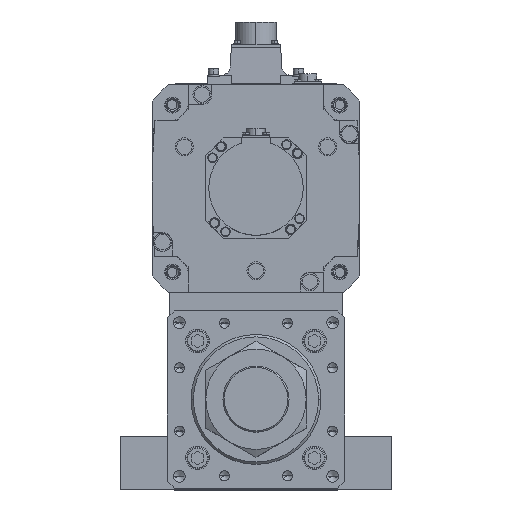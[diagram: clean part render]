
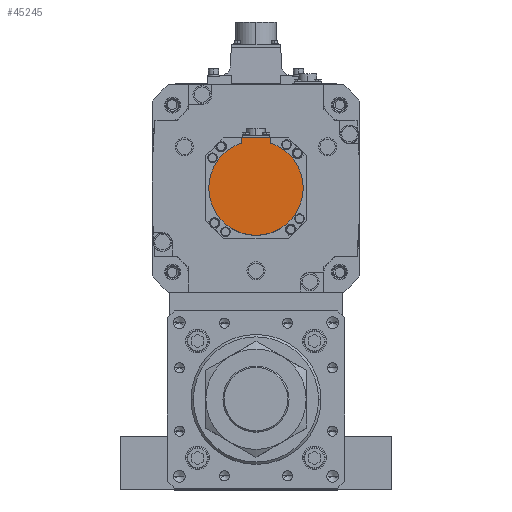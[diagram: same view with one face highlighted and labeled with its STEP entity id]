
A CAD part, top view. The second image highlights one B-rep face of the part: STEP entity #45245.
In plain terms, the highlighted planar face has unit normal (0, 0, 1) as drawn and (0, 0, -1) by its records, which use the part's own axes.
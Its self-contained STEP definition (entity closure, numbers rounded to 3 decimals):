
#108 = CARTESIAN_POINT ( 'NONE',  ( 12., -38.158, -228. ) ) ;
#1015 = DIRECTION ( 'NONE',  ( -1., 0., 0. ) ) ;
#2065 = ORIENTED_EDGE ( 'NONE', *, *, #23488, .F. ) ;
#2830 = DIRECTION ( 'NONE',  ( 1., 0., 0. ) ) ;
#4177 = CARTESIAN_POINT ( 'NONE',  ( -12., -38.158, -228. ) ) ;
#4830 = VERTEX_POINT ( 'NONE', #48286 ) ;
#6242 = AXIS2_PLACEMENT_3D ( 'NONE', #34002, #55398, #29469 ) ;
#6746 = EDGE_CURVE ( 'NONE', #55862, #42820, #25878, .T. ) ;
#7133 = LINE ( 'NONE', #45061, #27467 ) ;
#7333 = DIRECTION ( 'NONE',  ( 0., 0., 1. ) ) ;
#7704 = CARTESIAN_POINT ( 'NONE',  ( -12., -40.329, -228. ) ) ;
#8492 = FACE_OUTER_BOUND ( 'NONE', #13442, .T. ) ;
#9913 = DIRECTION ( 'NONE',  ( 1., 0., 0. ) ) ;
#11054 = VERTEX_POINT ( 'NONE', #4177 ) ;
#12715 = AXIS2_PLACEMENT_3D ( 'NONE', #31503, #26776, #9913 ) ;
#13442 = EDGE_LOOP ( 'NONE', ( #47881, #2065, #52361, #53785, #50135, #41305 ) ) ;
#13813 = EDGE_CURVE ( 'NONE', #21079, #23771, #42825, .T. ) ;
#18555 = DIRECTION ( 'NONE',  ( 0., 1., 0. ) ) ;
#19759 = CIRCLE ( 'NONE', #6242, 40. ) ;
#21079 = VERTEX_POINT ( 'NONE', #108 ) ;
#21245 = CARTESIAN_POINT ( 'NONE',  ( 0., -1.249, -228. ) ) ;
#22872 = EDGE_CURVE ( 'NONE', #55862, #21079, #7133, .T. ) ;
#23488 = EDGE_CURVE ( 'NONE', #4830, #11054, #30076, .T. ) ;
#23771 = VERTEX_POINT ( 'NONE', #25447 ) ;
#25300 = EDGE_CURVE ( 'NONE', #23771, #4830, #19759, .T. ) ;
#25390 = EDGE_CURVE ( 'NONE', #42820, #11054, #46178, .T. ) ;
#25447 = CARTESIAN_POINT ( 'NONE',  ( 40., 0., -228. ) ) ;
#25878 = LINE ( 'NONE', #44167, #44799 ) ;
#26729 = AXIS2_PLACEMENT_3D ( 'NONE', #21245, #51513, #29918 ) ;
#26776 = DIRECTION ( 'NONE',  ( 0., 0., 1. ) ) ;
#27467 = VECTOR ( 'NONE', #18555, 1000. ) ;
#28722 = CARTESIAN_POINT ( 'NONE',  ( 0., 0., -228. ) ) ;
#29469 = DIRECTION ( 'NONE',  ( 1., 0., 0. ) ) ;
#29649 = DIRECTION ( 'NONE',  ( 0., 1., 0. ) ) ;
#29918 = DIRECTION ( 'NONE',  ( 1., 0., 0. ) ) ;
#30076 = CIRCLE ( 'NONE', #12715, 40. ) ;
#31002 = CARTESIAN_POINT ( 'NONE',  ( 12., -42.5, -228. ) ) ;
#31503 = CARTESIAN_POINT ( 'NONE',  ( 0., 0., -228. ) ) ;
#32329 = CARTESIAN_POINT ( 'NONE',  ( -12., -42.5, -228. ) ) ;
#34002 = CARTESIAN_POINT ( 'NONE',  ( 0., 0., -228. ) ) ;
#41305 = ORIENTED_EDGE ( 'NONE', *, *, #6746, .T. ) ;
#42820 = VERTEX_POINT ( 'NONE', #32329 ) ;
#42825 = CIRCLE ( 'NONE', #46457, 40. ) ;
#44167 = CARTESIAN_POINT ( 'NONE',  ( 0., -42.5, -228. ) ) ;
#44799 = VECTOR ( 'NONE', #1015, 1000. ) ;
#44818 = VECTOR ( 'NONE', #29649, 1000. ) ;
#45061 = CARTESIAN_POINT ( 'NONE',  ( 12., -1.249, -228. ) ) ;
#45245 = ADVANCED_FACE ( 'NONE', ( #8492 ), #56031, .F. ) ;
#46178 = LINE ( 'NONE', #7704, #44818 ) ;
#46457 = AXIS2_PLACEMENT_3D ( 'NONE', #28722, #7333, #2830 ) ;
#47881 = ORIENTED_EDGE ( 'NONE', *, *, #25390, .T. ) ;
#48286 = CARTESIAN_POINT ( 'NONE',  ( -40., 0., -228. ) ) ;
#50135 = ORIENTED_EDGE ( 'NONE', *, *, #22872, .F. ) ;
#51513 = DIRECTION ( 'NONE',  ( 0., 0., 1. ) ) ;
#52361 = ORIENTED_EDGE ( 'NONE', *, *, #25300, .F. ) ;
#53785 = ORIENTED_EDGE ( 'NONE', *, *, #13813, .F. ) ;
#55398 = DIRECTION ( 'NONE',  ( 0., 0., 1. ) ) ;
#55862 = VERTEX_POINT ( 'NONE', #31002 ) ;
#56031 = PLANE ( 'NONE',  #26729 ) ;
